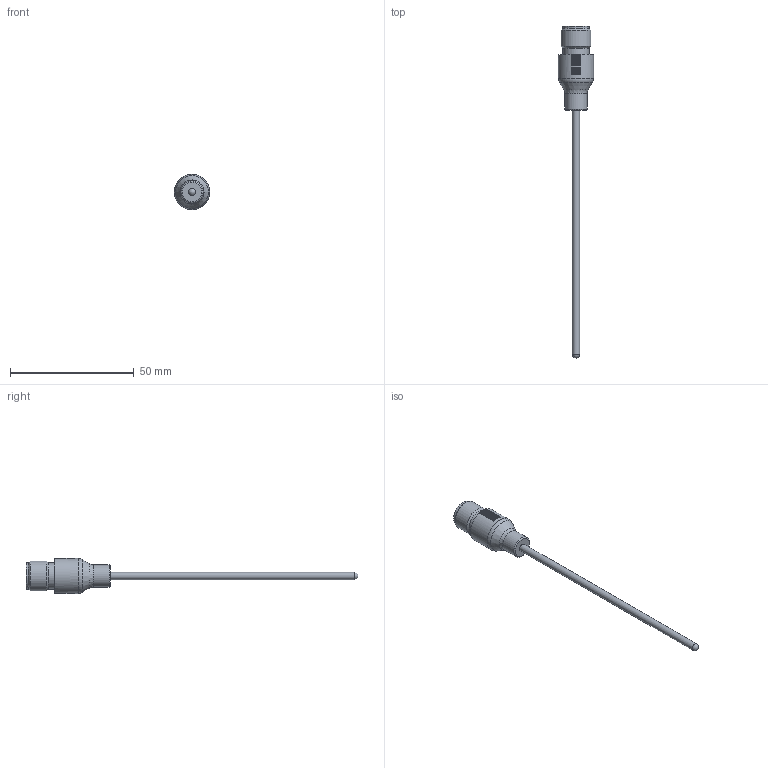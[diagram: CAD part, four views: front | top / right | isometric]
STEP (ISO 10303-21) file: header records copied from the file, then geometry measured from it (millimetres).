
FILE_DESCRIPTION((''),'2;1');
FILE_NAME('C:\TurckZip\TP-203-CF-H1.stp','2008-11-13T09:44:13',('IKOROL'),(''),'Autodesk Inventor 2008','Autodesk Inventor 2008','');
FILE_SCHEMA(('CONFIG_CONTROL_DESIGN'));
Length unit declared in the file: millimetre
Products named in the file (1): Part2
Bounding box: 14.2 x 133.99 x 14.2 mm (x, y, z)
Volume: 4023.5 mm3; surface area: 2840.5 mm2
Topology: 1 solids, 6 shells, 137 faces, 353 edges, 224 vertices
Faces by surface type: plane 42, bspline 42, cylinder 35, cone 11, torus 6, sphere 1
Full cylindrical faces by diameter (mm): 1 x12, 3 x1, 8.3 x1, 8.9 x1, 10.5 x2, 12 x1, 14.2 x1
Entity records: 4278 total; most frequent: CARTESIAN_POINT 1141, DIRECTION 616, ORIENTED_EDGE 592, EDGE_CURVE 296, AXIS2_PLACEMENT_3D 232, VERTEX_POINT 215, EDGE_LOOP 189, VECTOR 152
